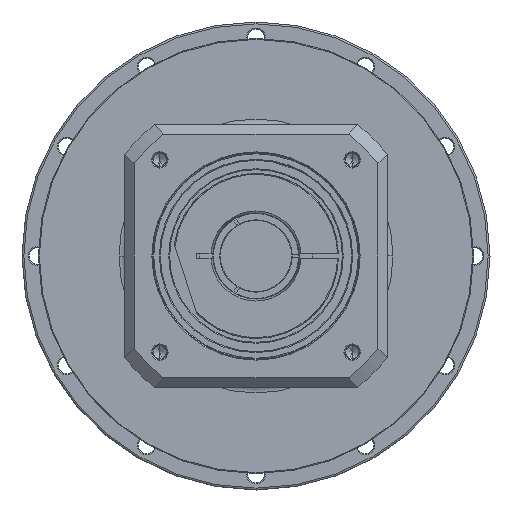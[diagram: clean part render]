
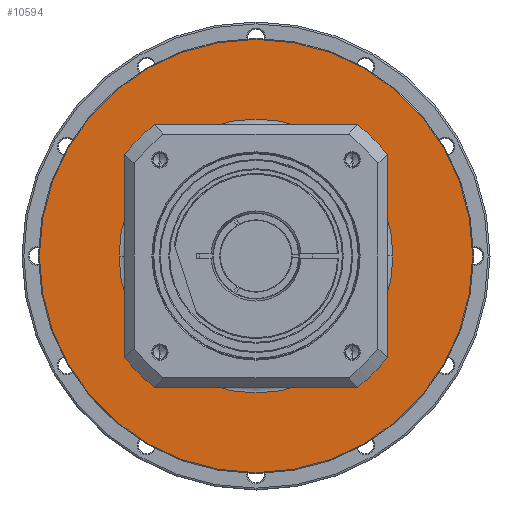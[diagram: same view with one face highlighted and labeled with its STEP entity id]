
A CAD part, left-side view. The second image highlights one B-rep face of the part: STEP entity #10594.
In plain terms, the highlighted planar face has unit normal (-1, 0, 0) as drawn and (1, 0, 0) by its records, which use the part's own axes.
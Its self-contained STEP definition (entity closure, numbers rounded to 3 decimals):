
#9625=CARTESIAN_POINT('',(-7.5,0.,0.));
#9626=DIRECTION('',(-1.,0.,0.));
#9627=DIRECTION('',(0.,-1.,0.));
#9628=AXIS2_PLACEMENT_3D('',#9625,#9626,#9627);
#9630=CARTESIAN_POINT('',(-7.5,0.,0.));
#9631=DIRECTION('',(-1.,0.,0.));
#9632=DIRECTION('',(0.,1.,0.));
#9633=AXIS2_PLACEMENT_3D('',#9630,#9631,#9632);
#9635=CARTESIAN_POINT('',(-7.5,0.,0.));
#9636=DIRECTION('',(-1.,0.,0.));
#9637=DIRECTION('',(0.,-1.,0.));
#9638=AXIS2_PLACEMENT_3D('',#9635,#9636,#9637);
#9640=CARTESIAN_POINT('',(-7.5,0.,0.));
#9641=DIRECTION('',(-1.,0.,0.));
#9642=DIRECTION('',(0.,1.,0.));
#9643=AXIS2_PLACEMENT_3D('',#9640,#9641,#9642);
#9873=CARTESIAN_POINT('',(-7.5,-115.5,0.));
#9874=CARTESIAN_POINT('',(-7.5,115.5,0.));
#9875=VERTEX_POINT('',#9873);
#9876=VERTEX_POINT('',#9874);
#9889=CARTESIAN_POINT('',(-7.5,-73.,0.));
#9890=CARTESIAN_POINT('',(-7.5,73.,0.));
#9891=VERTEX_POINT('',#9889);
#9892=VERTEX_POINT('',#9890);
#10579=CARTESIAN_POINT('',(-7.5,0.,0.));
#10580=DIRECTION('',(1.,0.,0.));
#10581=DIRECTION('',(0.,-1.,0.));
#10582=AXIS2_PLACEMENT_3D('',#10579,#10580,#10581);
#10583=PLANE('',#10582);
#10584=ORIENTED_EDGE('',*,*,#10535,.T.);
#10585=ORIENTED_EDGE('',*,*,#10520,.T.);
#10586=EDGE_LOOP('',(#10584,#10585));
#10587=FACE_OUTER_BOUND('',#10586,.F.);
#10589=ORIENTED_EDGE('',*,*,#10588,.F.);
#10591=ORIENTED_EDGE('',*,*,#10590,.F.);
#10592=EDGE_LOOP('',(#10589,#10591));
#10593=FACE_BOUND('',#10592,.F.);
#10594=ADVANCED_FACE('',(#10587,#10593),#10583,.T.);
#9629=CIRCLE('',#9628,73.);
#9634=CIRCLE('',#9633,73.);
#9639=CIRCLE('',#9638,115.5);
#9644=CIRCLE('',#9643,115.5);
#10520=EDGE_CURVE('',#9876,#9875,#9644,.T.);
#10535=EDGE_CURVE('',#9875,#9876,#9639,.T.);
#10588=EDGE_CURVE('',#9891,#9892,#9629,.T.);
#10590=EDGE_CURVE('',#9892,#9891,#9634,.T.);
